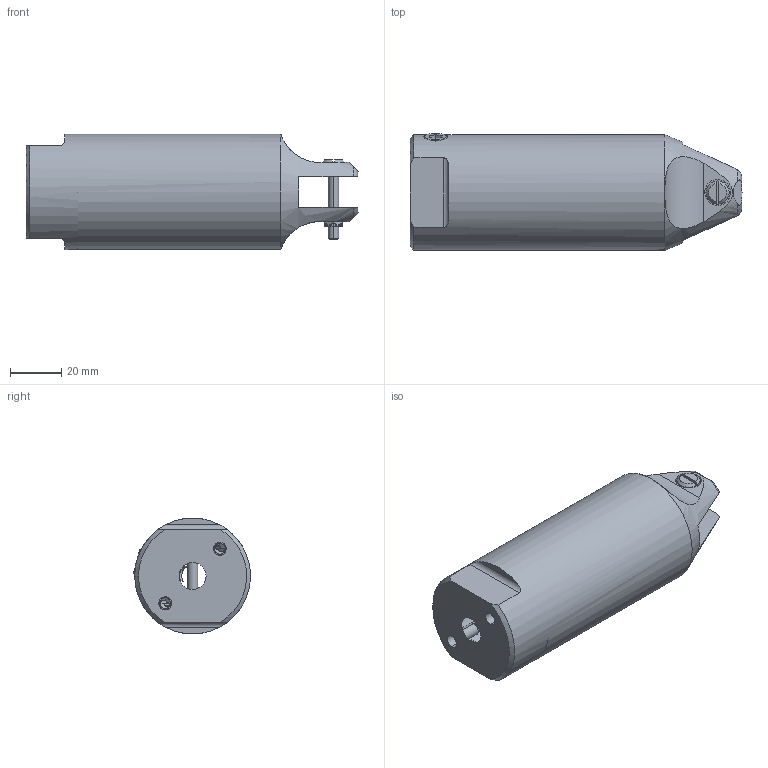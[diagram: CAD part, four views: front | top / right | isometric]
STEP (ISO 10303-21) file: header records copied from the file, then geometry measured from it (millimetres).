
FILE_DESCRIPTION (( 'STEP AP214' ), '1' );
FILE_NAME ('GT-NR20.STEP', '2019-11-28T01:00:02', ( '微软用户' ), ( '微软中国' ), 'SwSTEP 2.0', 'SolidWorks 2016', '' );
FILE_SCHEMA (( 'AUTOMOTIVE_DESIGN' ));
Length unit declared in the file: millimetre
Products named in the file (1): GT-NR20
Bounding box: 129 x 45.45 x 45 mm (x, y, z)
Surface area: 22200.2 mm2 (no closed solid volume)
Topology: 0 solids, 7 shells, 173 faces, 441 edges, 274 vertices
Faces by surface type: plane 68, cylinder 57, cone 42, bspline 4, torus 2
Full cylindrical faces by diameter (mm): 45 x1
Entity records: 8536 total; most frequent: CARTESIAN_POINT 4683, ORIENTED_EDGE 833, DIRECTION 704, EDGE_CURVE 431, AXIS2_PLACEMENT_3D 289, VERTEX_POINT 271, EDGE_LOOP 189, B_SPLINE_CURVE_WITH_KNOTS 184
